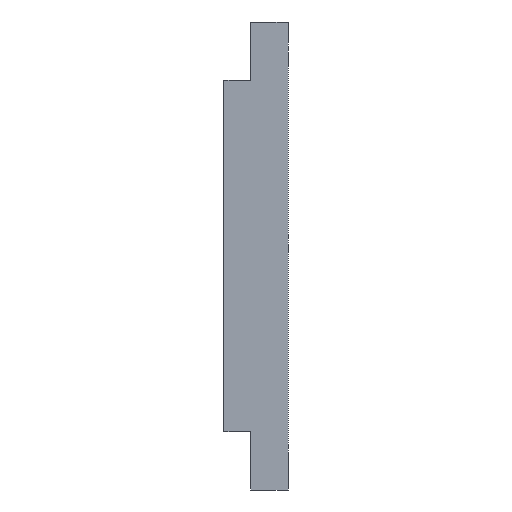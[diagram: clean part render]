
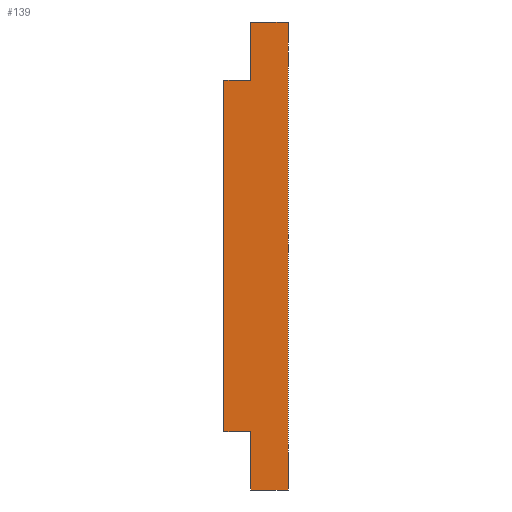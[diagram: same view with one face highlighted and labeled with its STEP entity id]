
A CAD part, left-side view. The second image highlights one B-rep face of the part: STEP entity #139.
In plain terms, the highlighted planar face has unit normal (-1, 0, 0).
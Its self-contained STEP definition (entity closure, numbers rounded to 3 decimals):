
#17 = CARTESIAN_POINT ( 'NONE',  ( -100., 6., -37.5 ) ) ;
#52 = CARTESIAN_POINT ( 'NONE',  ( -100., 0., 37.5 ) ) ;
#77 = CARTESIAN_POINT ( 'NONE',  ( -100., 10.3, -28.2 ) ) ;
#93 = LINE ( 'NONE', #77, #1183 ) ;
#139 = ADVANCED_FACE ( 'NONE', ( #1706 ), #1700, .F. ) ;
#142 = LINE ( 'NONE', #1978, #794 ) ;
#164 = ORIENTED_EDGE ( 'NONE', *, *, #1948, .F. ) ;
#217 = ORIENTED_EDGE ( 'NONE', *, *, #600, .F. ) ;
#225 = VERTEX_POINT ( 'NONE', #904 ) ;
#418 = EDGE_CURVE ( 'NONE', #763, #2270, #1423, .T. ) ;
#454 = CARTESIAN_POINT ( 'NONE',  ( -100., 10.3, 28.2 ) ) ;
#488 = ORIENTED_EDGE ( 'NONE', *, *, #1787, .F. ) ;
#504 = LINE ( 'NONE', #2377, #2559 ) ;
#593 = VERTEX_POINT ( 'NONE', #2576 ) ;
#600 = EDGE_CURVE ( 'NONE', #2335, #225, #142, .T. ) ;
#630 = CARTESIAN_POINT ( 'NONE',  ( -100., 0., -37.5 ) ) ;
#692 = VECTOR ( 'NONE', #1758, 1000. ) ;
#723 = CARTESIAN_POINT ( 'NONE',  ( -100., 6., 37.5 ) ) ;
#740 = DIRECTION ( 'NONE',  ( 0., 0., 1. ) ) ;
#763 = VERTEX_POINT ( 'NONE', #17 ) ;
#794 = VECTOR ( 'NONE', #997, 1000. ) ;
#827 = ORIENTED_EDGE ( 'NONE', *, *, #418, .T. ) ;
#860 = ORIENTED_EDGE ( 'NONE', *, *, #2185, .T. ) ;
#904 = CARTESIAN_POINT ( 'NONE',  ( -100., 6., 28.2 ) ) ;
#919 = VECTOR ( 'NONE', #1557, 1000. ) ;
#985 = CARTESIAN_POINT ( 'NONE',  ( -100., 6., 37.5 ) ) ;
#997 = DIRECTION ( 'NONE',  ( 0., -1., 0. ) ) ;
#1084 = ORIENTED_EDGE ( 'NONE', *, *, #2096, .F. ) ;
#1106 = VERTEX_POINT ( 'NONE', #1826 ) ;
#1182 = VERTEX_POINT ( 'NONE', #2255 ) ;
#1183 = VECTOR ( 'NONE', #1273, 1000. ) ;
#1205 = EDGE_CURVE ( 'NONE', #2260, #1106, #93, .T. ) ;
#1273 = DIRECTION ( 'NONE',  ( 0., -1., 0. ) ) ;
#1308 = DIRECTION ( 'NONE',  ( 0., 0., -1. ) ) ;
#1345 = LINE ( 'NONE', #52, #1656 ) ;
#1386 = DIRECTION ( 'NONE',  ( 0., 0., 1. ) ) ;
#1413 = ORIENTED_EDGE ( 'NONE', *, *, #2477, .F. ) ;
#1423 = LINE ( 'NONE', #1566, #919 ) ;
#1502 = LINE ( 'NONE', #1516, #1591 ) ;
#1516 = CARTESIAN_POINT ( 'NONE',  ( -100., 6., 37.5 ) ) ;
#1546 = AXIS2_PLACEMENT_3D ( 'NONE', #723, #2280, #1308 ) ;
#1557 = DIRECTION ( 'NONE',  ( 0., -1., 0. ) ) ;
#1566 = CARTESIAN_POINT ( 'NONE',  ( -100., 6., -37.5 ) ) ;
#1591 = VECTOR ( 'NONE', #740, 1000. ) ;
#1634 = DIRECTION ( 'NONE',  ( 0., 0., 1. ) ) ;
#1656 = VECTOR ( 'NONE', #1634, 1000. ) ;
#1688 = ORIENTED_EDGE ( 'NONE', *, *, #1205, .T. ) ;
#1700 = PLANE ( 'NONE',  #1546 ) ;
#1706 = FACE_OUTER_BOUND ( 'NONE', #2352, .T. ) ;
#1750 = CARTESIAN_POINT ( 'NONE',  ( -100., 6., 37.5 ) ) ;
#1758 = DIRECTION ( 'NONE',  ( 0., -1., 0. ) ) ;
#1787 = EDGE_CURVE ( 'NONE', #763, #1106, #2301, .T. ) ;
#1826 = CARTESIAN_POINT ( 'NONE',  ( -100., 6., -28.2 ) ) ;
#1836 = VECTOR ( 'NONE', #1958, 1000. ) ;
#1948 = EDGE_CURVE ( 'NONE', #593, #1182, #2444, .T. ) ;
#1958 = DIRECTION ( 'NONE',  ( 0., 0., 1. ) ) ;
#1978 = CARTESIAN_POINT ( 'NONE',  ( -100., 10.3, 28.2 ) ) ;
#2096 = EDGE_CURVE ( 'NONE', #2260, #2335, #504, .T. ) ;
#2185 = EDGE_CURVE ( 'NONE', #2270, #1182, #1345, .T. ) ;
#2255 = CARTESIAN_POINT ( 'NONE',  ( -100., 0., 37.5 ) ) ;
#2260 = VERTEX_POINT ( 'NONE', #2414 ) ;
#2270 = VERTEX_POINT ( 'NONE', #630 ) ;
#2280 = DIRECTION ( 'NONE',  ( 1., 0., 0. ) ) ;
#2301 = LINE ( 'NONE', #985, #1836 ) ;
#2335 = VERTEX_POINT ( 'NONE', #454 ) ;
#2352 = EDGE_LOOP ( 'NONE', ( #860, #164, #1413, #217, #1084, #1688, #488, #827 ) ) ;
#2377 = CARTESIAN_POINT ( 'NONE',  ( -100., 10.3, 28.2 ) ) ;
#2414 = CARTESIAN_POINT ( 'NONE',  ( -100., 10.3, -28.2 ) ) ;
#2444 = LINE ( 'NONE', #1750, #692 ) ;
#2477 = EDGE_CURVE ( 'NONE', #225, #593, #1502, .T. ) ;
#2559 = VECTOR ( 'NONE', #1386, 1000. ) ;
#2576 = CARTESIAN_POINT ( 'NONE',  ( -100., 6., 37.5 ) ) ;
